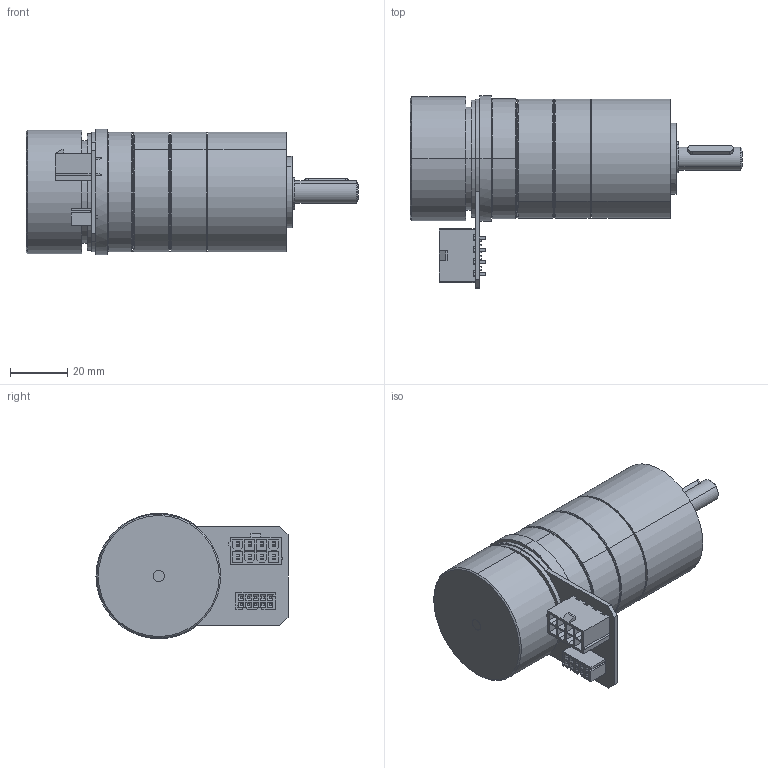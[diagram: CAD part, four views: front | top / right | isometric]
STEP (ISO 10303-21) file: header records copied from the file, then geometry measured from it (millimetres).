
FILE_DESCRIPTION (( 'STEP AP214' ), '1' );
FILE_NAME ('EC45Flat-70W + PM42-2 étages.STEP', '2014-11-18T14:08:24', ( '' ), ( '' ), 'SwSTEP 2.0', 'SolidWorks 2013', '' );
FILE_SCHEMA (( 'AUTOMOTIVE_DESIGN' ));
Length unit declared in the file: millimetre
Products named in the file (22): Coté sortie^PM42 pour EC45Flat-70W; SCHRAUBE_1241978_17; 3X3X16_D6885A_11; D471_8X0_8_11; 8001316_ABTRIEB_LK4_KPL_10; 8001305_LAGERBOLZEN_11; VBZ_K7841_ABTRIEB_AF0_11; DIN998_PS_8X14X1_11; D625-608-2RS_10; 8007595_LAGERFLANSCH_10; Coté moteur^PM42 pour EC45Flat-70W; 1008602_Part; 8012556_MOTORRITZEL_Z17_1_3; 8001288_ANLAUFSCHEIBE_1ST_9; 8007606_DICHTRING_10; EC45Flat-70w+mile; P8209_8007589_ZAHNKRANZ_Z46_10; 906350101; 039281083; EC45Flat-70W + PM42-2 étages; EC45FLAT-70W+mile; PM42 pour EC45Flat-70W_2 etages
Assembly tree (31 placements, depth 5):
  EC45Flat-70W + PM42-2 étages
    PM42 pour EC45Flat-70W_2 etages
      P8209_8007589_ZAHNKRANZ_Z46_10  x2
      Coté moteur^PM42 pour EC45Flat-70W
        8007606_DICHTRING_10
        8001288_ANLAUFSCHEIBE_1ST_9
        8012556_MOTORRITZEL_Z17_1_3
        1008602_Part
      Coté sortie^PM42 pour EC45Flat-70W
        8007595_LAGERFLANSCH_10
        D625-608-2RS_10  x2
        DIN998_PS_8X14X1_11  x2
        8001316_ABTRIEB_LK4_KPL_10
          VBZ_K7841_ABTRIEB_AF0_11
          8001305_LAGERBOLZEN_11  x3
        D471_8X0_8_11
        3X3X16_D6885A_11
        8007606_DICHTRING_10
        SCHRAUBE_1241978_17  x4
      8007606_DICHTRING_10
    EC45Flat-70w+mile
      EC45FLAT-70W+mile
      039281083
      906350101
Bounding box: 116.35 x 67.3 x 44 mm (x, y, z)
Volume: 81898.6 mm3; surface area: 61956.3 mm2
Topology: 24 solids, 45 shells, 1544 faces, 4026 edges, 2628 vertices
Faces by surface type: plane 877, cylinder 519, cone 96, bspline 52
Entity records: 38744 total; most frequent: CARTESIAN_POINT 7957, DIRECTION 6249, ORIENTED_EDGE 6086, EDGE_CURVE 3063, LINE 2197, VECTOR 2197, AXIS2_PLACEMENT_3D 2026, VERTEX_POINT 2010
